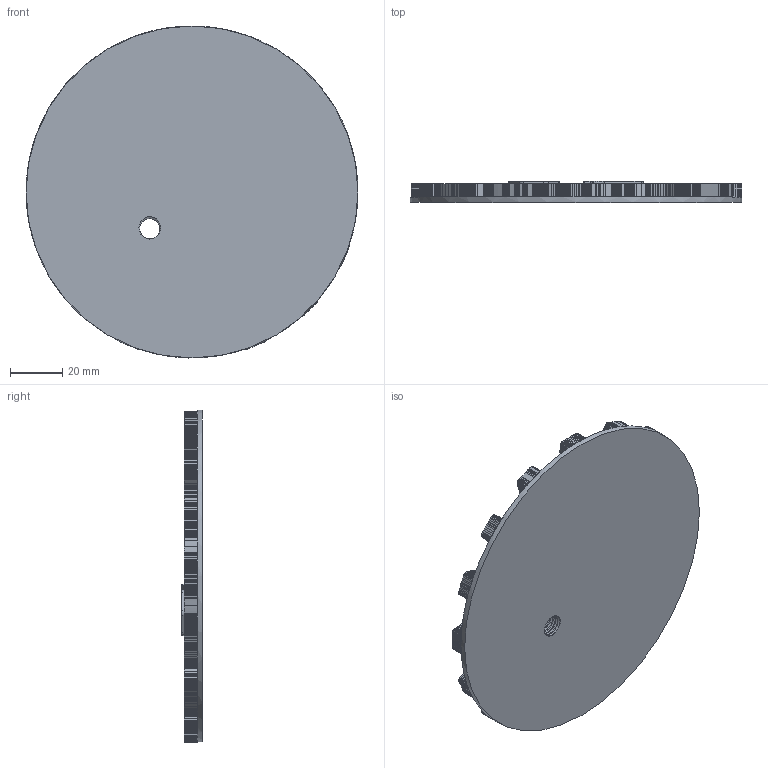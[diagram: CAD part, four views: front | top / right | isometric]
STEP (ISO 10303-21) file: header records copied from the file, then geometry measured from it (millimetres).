
FILE_DESCRIPTION(/* description */ (''),/* implementation_level */ '2;1');
FILE_NAME(/* name */ 'logo_itis v1.stp',/* time_stamp */ '2025-02-21T20:31:36+01:00',/* author */ ('R5800u'),/* organization */ (''),/* preprocessor_version */ 'ST-DEVELOPER v20',/* originating_system */ 'Autodesk Inventor 2025',/* authorisation */ '');
FILE_SCHEMA (('AUTOMOTIVE_DESIGN { 1 0 10303 214 3 1 1 }'));
Length unit declared in the file: millimetre
Products named in the file (1): logo_itis
Bounding box: 126.5 x 8 x 126.51 mm (x, y, z)
Volume: 69380.6 mm3; surface area: 35527.9 mm2
Topology: 1 solids, 1 shells, 3330 faces, 9883 edges, 6582 vertices
Faces by surface type: plane 3130, cylinder 111, bspline 89
Full cylindrical faces by diameter (mm): 1.6 x1, 7.779 x3, 9.17 x5, 126.5 x1
Entity records: 111632 total; most frequent: CARTESIAN_POINT 22799, ORIENTED_EDGE 19766, DIRECTION 16377, EDGE_CURVE 9883, LINE 9457, VECTOR 9457, VERTEX_POINT 6582, AXIS2_PLACEMENT_3D 3460
